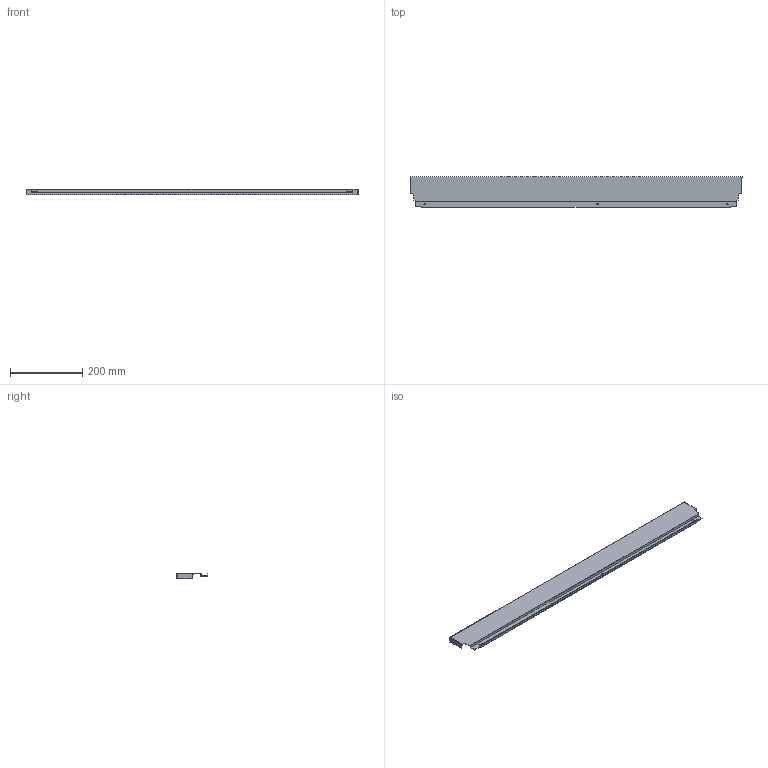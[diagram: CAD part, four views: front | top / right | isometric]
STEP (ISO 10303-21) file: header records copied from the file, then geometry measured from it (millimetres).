
FILE_DESCRIPTION (( 'STEP AP214' ), '1' );
FILE_NAME ('_DWD_XP Stahlrückwand_H86_KAB1000_S16.step', '2010-07-08T12:10:02', ( 'grass' ), ( '' ), 'SwSTEP 2.0', 'SolidWorks 2010', '' );
FILE_SCHEMA (( 'AUTOMOTIVE_DESIGN' ));
Length unit declared in the file: millimetre
Products named in the file (1): _DWD_XP Stahlrückwand_H86_KAB1000_S16
Bounding box: 919 x 85.79 x 16 mm (x, y, z)
Volume: 98614.7 mm3; surface area: 213899 mm2
Topology: 1 solids, 1 shells, 50 faces, 144 edges, 96 vertices
Faces by surface type: plane 44, cylinder 6
Entity records: 1666 total; most frequent: CARTESIAN_POINT 291, ORIENTED_EDGE 288, DIRECTION 258, EDGE_CURVE 144, VECTOR 132, LINE 132, VERTEX_POINT 96, AXIS2_PLACEMENT_3D 63
